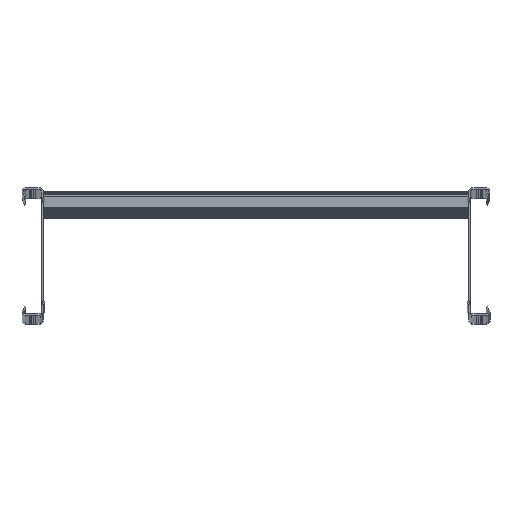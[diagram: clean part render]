
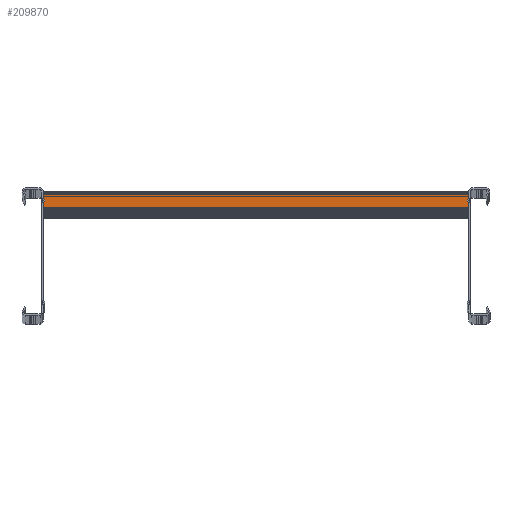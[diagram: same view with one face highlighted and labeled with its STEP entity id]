
A CAD part, top view. The second image highlights one B-rep face of the part: STEP entity #209870.
In plain terms, the highlighted planar face has unit normal (0, 0, 1) as drawn and (1, 0, 0) by its records, which use the part's own axes.
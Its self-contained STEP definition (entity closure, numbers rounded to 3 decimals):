
#206360=CARTESIAN_POINT('',(39.75,881.,100.));
#206370=VERTEX_POINT('',#206360);
#206400=CARTESIAN_POINT('',(39.75,0.,100.));
#206410=DIRECTION('',(0.,-1.,0.));
#206420=VECTOR('',#206410,1.);
#206430=LINE('',#206400,#206420);
#206440=CARTESIAN_POINT('',(39.75,897.,100.));
#206450=VERTEX_POINT('',#206440);
#206460=EDGE_CURVE('',#206450,#206370,#206430,.T.);
#209570=CARTESIAN_POINT('',(39.75,900.,0.));
#209580=DIRECTION('',(1.,0.,0.));
#209590=DIRECTION('',(0.,-1.,0.));
#209600=AXIS2_PLACEMENT_3D('',#209570,#209580,#209590);
#209610=PLANE('',#209600);
#209620=ORIENTED_EDGE('',*,*,#206460,.F.);
#209630=CARTESIAN_POINT('',(39.75,881.,0.));
#209640=DIRECTION('',(0.,0.,1.));
#209650=VECTOR('',#209640,1.);
#209660=LINE('',#209630,#209650);
#209670=CARTESIAN_POINT('',(39.75,881.,600.));
#209680=VERTEX_POINT('',#209670);
#209690=EDGE_CURVE('',#206370,#209680,#209660,.T.);
#209700=ORIENTED_EDGE('',*,*,#209690,.F.);
#209710=CARTESIAN_POINT('',(39.75,0.,600.));
#209720=DIRECTION('',(0.,1.,0.));
#209730=VECTOR('',#209720,1.);
#209740=LINE('',#209710,#209730);
#209750=CARTESIAN_POINT('',(39.75,897.,600.));
#209760=VERTEX_POINT('',#209750);
#209770=EDGE_CURVE('',#209680,#209760,#209740,.T.);
#209780=ORIENTED_EDGE('',*,*,#209770,.F.);
#209790=CARTESIAN_POINT('',(39.75,897.,0.));
#209800=DIRECTION('',(0.,0.,1.));
#209810=VECTOR('',#209800,1.);
#209820=LINE('',#209790,#209810);
#209830=EDGE_CURVE('',#206450,#209760,#209820,.T.);
#209840=ORIENTED_EDGE('',*,*,#209830,.T.);
#209850=EDGE_LOOP('',(#209840,#209780,#209700,#209620));
#209860=FACE_OUTER_BOUND('',#209850,.T.);
#209870=ADVANCED_FACE('',(#209860),#209610,.T.);
